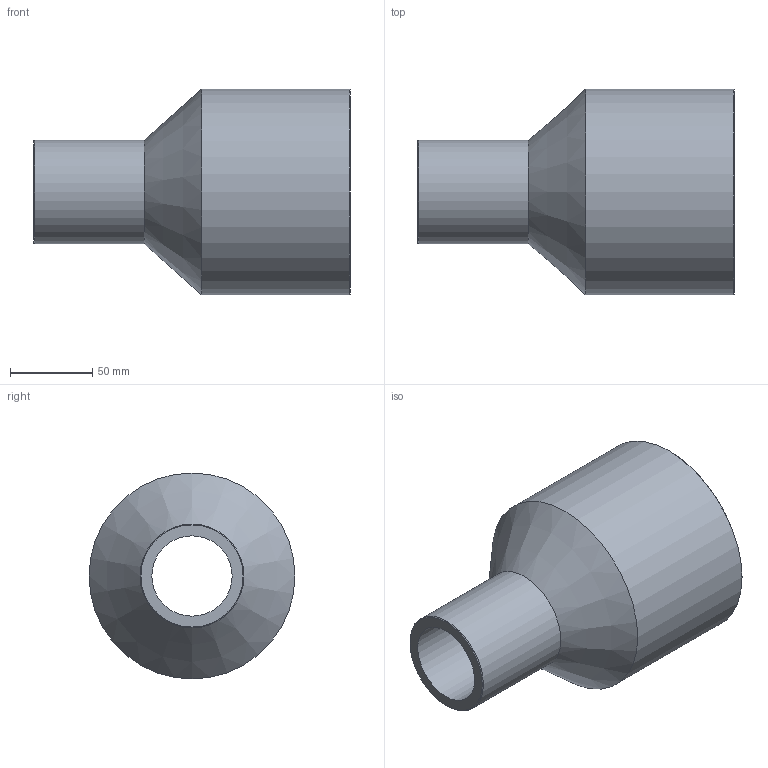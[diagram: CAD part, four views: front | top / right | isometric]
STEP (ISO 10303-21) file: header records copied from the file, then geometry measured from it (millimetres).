
FILE_DESCRIPTION(/* description */ ('Unknown'),/* implementation_level */ '2;1');
FILE_NAME(/* name */ 'RP125063G',/* time_stamp */ '2021-09-16T16:00:22+02:00',/* author */ ('Unknown'),/* organization */ ('Unknown'),/* preprocessor_version */ 'ST-DEVELOPER v16.7',/* originating_system */ 'Solid Edge',/* authorisation */ 'Unknown');
FILE_SCHEMA (('AUTOMOTIVE_DESIGN {1 0 10303 214 3 1 1}'));
Length unit declared in the file: millimetre
Products named in the file (1): RP125063G
Bounding box: 192 x 125 x 125 mm (x, y, z)
Volume: 659318.5 mm3; surface area: 114772.3 mm2
Topology: 1 solids, 1 shells, 10 faces, 19 edges, 11 vertices
Faces by surface type: cylinder 4, cone 4, plane 2
Full cylindrical faces by diameter (mm): 48.8 x1, 63 x1, 97 x1, 125 x1
Entity records: 238 total; most frequent: DIRECTION 42, CARTESIAN_POINT 31, AXIS2_PLACEMENT_3D 21, ORIENTED_EDGE 20, EDGE_LOOP 20, FACE_BOUND 20, EDGE_CURVE 10, VERTEX_POINT 10
